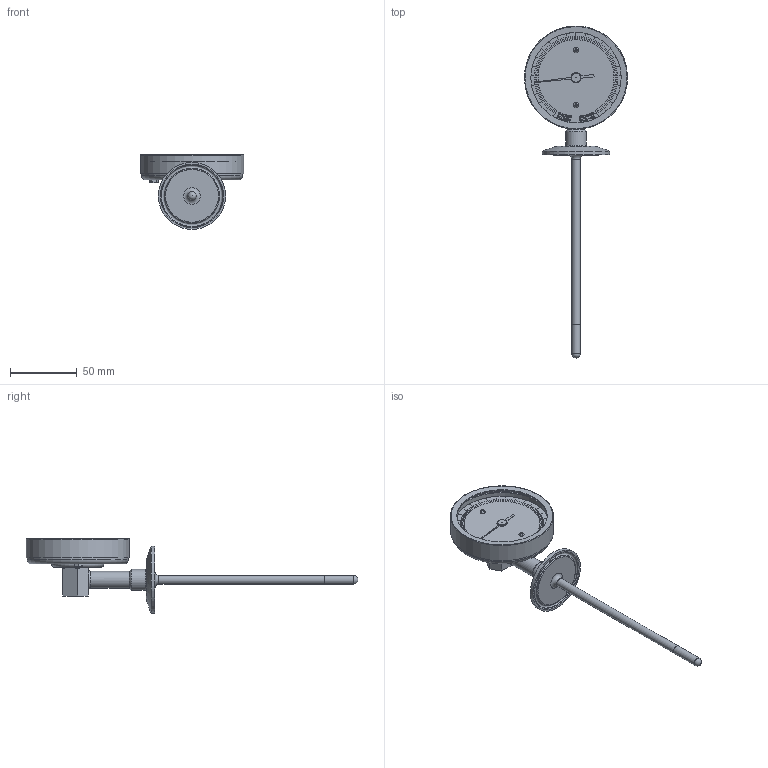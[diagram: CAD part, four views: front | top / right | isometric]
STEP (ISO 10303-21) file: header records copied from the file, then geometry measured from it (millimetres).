
FILE_DESCRIPTION(/* description */ (''),/* implementation_level */ '2;1');
FILE_NAME(/* name */ 'P:\3D Drawings\XR\XR-1in-SANITARY\XR-1in-SANITARY-STP\XR-1in-SANITARY-STP.stp',/* time_stamp */ '2015-11-09T11:39:25-08:00',/* author */ ('charles'),/* organization */ (''),/* preprocessor_version */ 'ST-DEVELOPER v15.2',/* originating_system */ 'Autodesk Inventor 2014',/* authorisation */ '');
FILE_SCHEMA (('AUTOMOTIVE_DESIGN { 1 0 10303 214 3 1 1 }'));
Products named in the file (1): XR-1in-SANITARY
Bounding box: 77.45 x 249.14 x 56.18 mm (x, y, z)
Volume: 56602.7 mm3; surface area: 53458.7 mm2
Topology: 26 solids, 27 shells, 1480 faces, 4225 edges, 2813 vertices
Faces by surface type: plane 1103, bspline 328, cylinder 23, torus 13, cone 12, sphere 1
Full cylindrical faces by diameter (mm): 0.311 x1, 2.286 x4, 6.02 x1, 6.35 x1, 6.714 x1, 6.934 x2, 10.998 x1, 12.7 x1, 15.634 x1, 50.394 x1, 67.855 x1, 70.612 x2, 73.406 x1, 75.946 x1, 76.2 x1, 77.47 x1
Entity records: 52899 total; most frequent: CARTESIAN_POINT 14611, ORIENTED_EDGE 8348, DIRECTION 5861, EDGE_CURVE 4174, LINE 3405, VECTOR 3405, VERTEX_POINT 2803, EDGE_LOOP 1925
